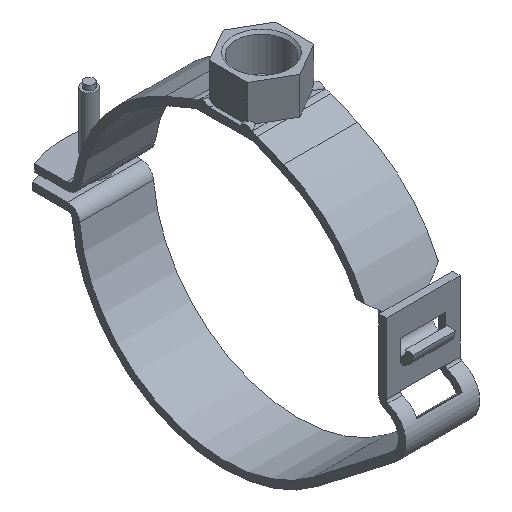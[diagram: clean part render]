
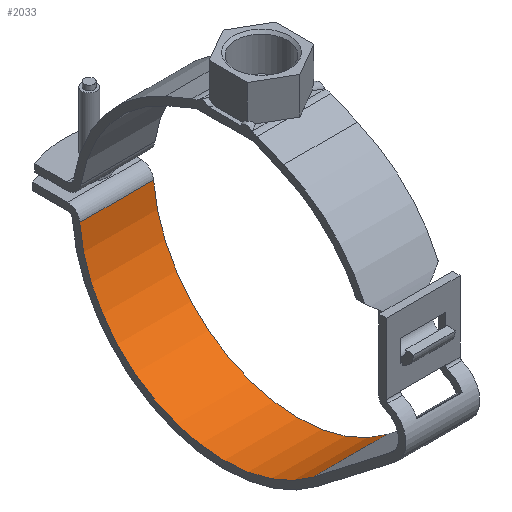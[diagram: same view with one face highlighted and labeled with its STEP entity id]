
A CAD part, isometric view. The second image highlights one B-rep face of the part: STEP entity #2033.
In plain terms, the highlighted cylindrical face has radius 59 mm (diameter 118 mm), a partial arc.
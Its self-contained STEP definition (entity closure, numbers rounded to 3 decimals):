
#190=LINE('',#3388,#376);
#191=LINE('',#3390,#377);
#376=VECTOR('',#2760,30.);
#377=VECTOR('',#2763,30.);
#558=FACE_OUTER_BOUND('',#677,.T.);
#677=EDGE_LOOP('',(#1710,#1711,#1712,#1713));
#763=CIRCLE('',#2177,59.);
#766=CIRCLE('',#2181,59.);
#940=VERTEX_POINT('',#3270);
#941=VERTEX_POINT('',#3272);
#944=VERTEX_POINT('',#3280);
#945=VERTEX_POINT('',#3282);
#1179=EDGE_CURVE('',#940,#941,#763,.T.);
#1184=EDGE_CURVE('',#944,#945,#766,.T.);
#1239=EDGE_CURVE('',#940,#945,#190,.T.);
#1240=EDGE_CURVE('',#941,#944,#191,.T.);
#1710=ORIENTED_EDGE('',*,*,#1239,.T.);
#1711=ORIENTED_EDGE('',*,*,#1184,.F.);
#1712=ORIENTED_EDGE('',*,*,#1240,.F.);
#1713=ORIENTED_EDGE('',*,*,#1179,.F.);
#1835=CYLINDRICAL_SURFACE('',#2228,59.);
#2033=ADVANCED_FACE('',(#558),#1835,.F.);
#2177=AXIS2_PLACEMENT_3D('',#3273,#2629,#2630);
#2181=AXIS2_PLACEMENT_3D('',#3283,#2639,#2640);
#2228=AXIS2_PLACEMENT_3D('',#3389,#2761,#2762);
#2629=DIRECTION('center_axis',(1.,0.,0.));
#2630=DIRECTION('ref_axis',(0.,0.611,0.791));
#2639=DIRECTION('center_axis',(-1.,0.,0.));
#2640=DIRECTION('ref_axis',(0.,0.611,0.791));
#2760=DIRECTION('',(1.,0.,0.));
#2761=DIRECTION('center_axis',(1.,0.,0.));
#2762=DIRECTION('ref_axis',(0.,0.611,0.791));
#2763=DIRECTION('',(1.,0.,0.));
#3270=CARTESIAN_POINT('',(-15.,-36.077,-46.684));
#3272=CARTESIAN_POINT('',(-15.,58.82,-4.609));
#3273=CARTESIAN_POINT('Origin',(-15.,0.,0.));
#3280=CARTESIAN_POINT('',(15.,58.82,-4.609));
#3282=CARTESIAN_POINT('',(15.,-36.077,-46.684));
#3283=CARTESIAN_POINT('Origin',(15.,0.,0.));
#3388=CARTESIAN_POINT('',(0.,-36.077,-46.684));
#3389=CARTESIAN_POINT('Origin',(0.,0.,0.));
#3390=CARTESIAN_POINT('',(0.,58.82,-4.609));
